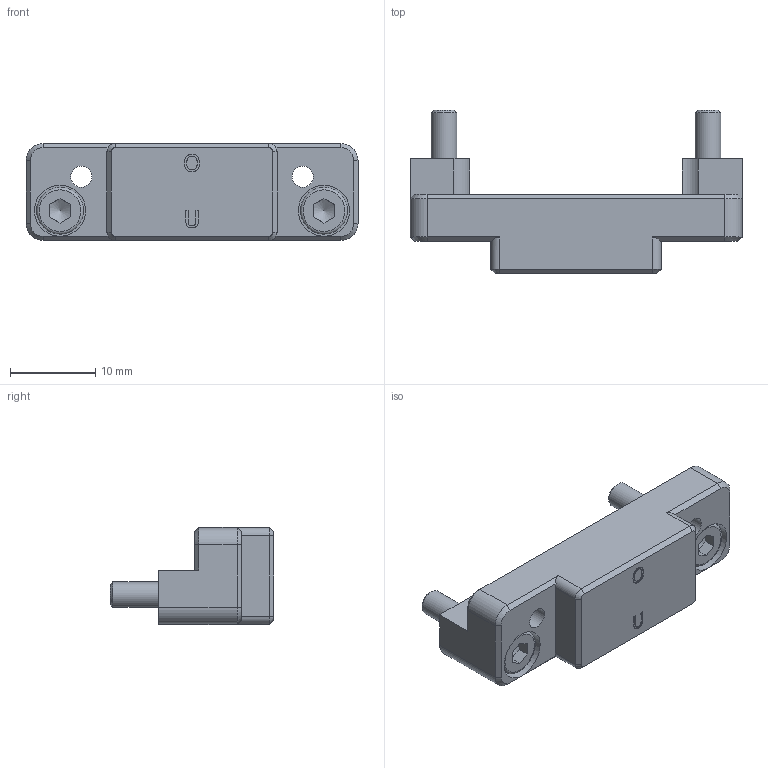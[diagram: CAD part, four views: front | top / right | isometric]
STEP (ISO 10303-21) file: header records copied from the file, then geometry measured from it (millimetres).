
FILE_DESCRIPTION(/* description */ (''),/* implementation_level */ '2;1');
FILE_NAME(/* name */ 'T:\CAD\Standard\SEK\SEK125\ZG-AP-SEK100-SHW125\Homepage-Ordner\3D-ZG-AP-SEK100-SHW125.stp',/* time_stamp */ '2022-11-16T14:21:07+01:00',/* author */ ('ysplieth'),/* organization */ (''),/* preprocessor_version */ 'ST-DEVELOPER v17',/* originating_system */ 'Autodesk Inventor 2018',/* authorisation */ '');
FILE_SCHEMA (('AUTOMOTIVE_DESIGN { 1 0 10303 214 3 1 1 }'));
Length unit declared in the file: millimetre
Products named in the file (1): Bauteil14
Bounding box: 39 x 19.2 x 11.4 mm (x, y, z)
Volume: 3562.5 mm3; surface area: 2493.3 mm2
Topology: 1 solids, 1 shells, 118 faces, 313 edges, 206 vertices
Faces by surface type: plane 58, bspline 22, cylinder 20, cone 14, torus 4
Full cylindrical faces by diameter (mm): 2.5 x2, 3 x2, 3.4 x2, 5.5 x2, 6 x2
Entity records: 4012 total; most frequent: CARTESIAN_POINT 1016, ORIENTED_EDGE 622, DIRECTION 533, EDGE_CURVE 311, VERTEX_POINT 206, AXIS2_PLACEMENT_3D 183, LINE 167, VECTOR 167
